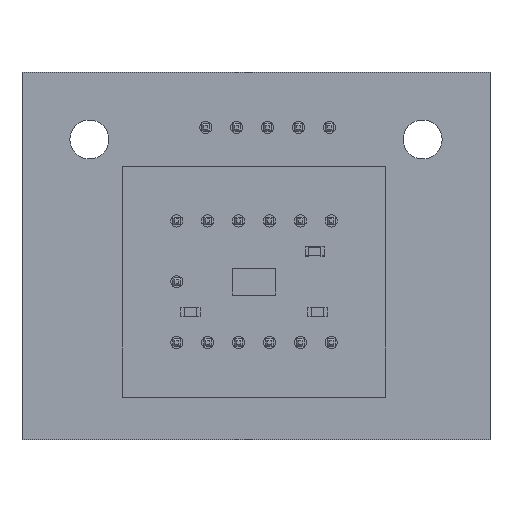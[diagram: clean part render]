
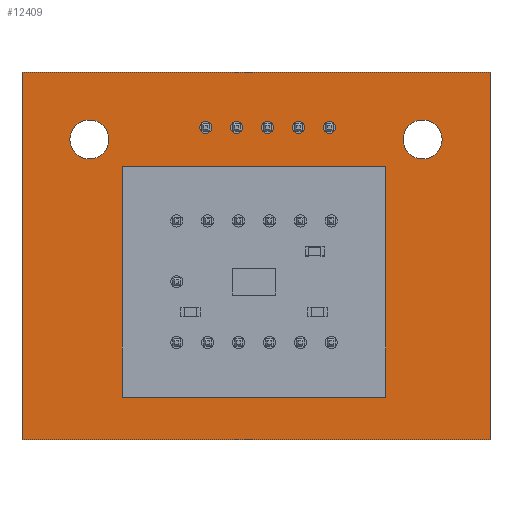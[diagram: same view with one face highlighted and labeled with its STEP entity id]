
A CAD part, top view. The second image highlights one B-rep face of the part: STEP entity #12409.
In plain terms, the highlighted planar face has unit normal (0, 0, 1).
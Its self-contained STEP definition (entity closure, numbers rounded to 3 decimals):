
#12077 = VERTEX_POINT('',#12078);
#12078 = CARTESIAN_POINT('',(19.25,-15.125,1.51));
#12084 = EDGE_CURVE('',#12077,#12085,#12087,.T.);
#12085 = VERTEX_POINT('',#12086);
#12086 = CARTESIAN_POINT('',(-19.25,-15.125,1.51));
#12087 = LINE('',#12088,#12089);
#12088 = CARTESIAN_POINT('',(19.25,-15.125,1.51));
#12089 = VECTOR('',#12090,1.);
#12090 = DIRECTION('',(-1.,0.,0.));
#12117 = VERTEX_POINT('',#12118);
#12118 = CARTESIAN_POINT('',(19.25,15.125,1.51));
#12124 = EDGE_CURVE('',#12117,#12077,#12125,.T.);
#12125 = LINE('',#12126,#12127);
#12126 = CARTESIAN_POINT('',(19.25,15.125,1.51));
#12127 = VECTOR('',#12128,1.);
#12128 = DIRECTION('',(0.,-1.,0.));
#12146 = EDGE_CURVE('',#12085,#12147,#12149,.T.);
#12147 = VERTEX_POINT('',#12148);
#12148 = CARTESIAN_POINT('',(-19.25,15.125,1.51));
#12149 = LINE('',#12150,#12151);
#12150 = CARTESIAN_POINT('',(-19.25,-15.125,1.51));
#12151 = VECTOR('',#12152,1.);
#12152 = DIRECTION('',(0.,1.,0.));
#12409 = ADVANCED_FACE('',(#12410,#12421,#12432,#12443,#12454,#12465,
    #12476,#12487,#12498,#12509,#12520,#12531,#12542,#12553,#12564,
    #12575,#12586,#12597,#12608,#12619,#12630),#12641,.T.);
#12410 = FACE_BOUND('',#12411,.T.);
#12411 = EDGE_LOOP('',(#12412,#12413,#12414,#12420));
#12412 = ORIENTED_EDGE('',*,*,#12084,.F.);
#12413 = ORIENTED_EDGE('',*,*,#12124,.F.);
#12414 = ORIENTED_EDGE('',*,*,#12415,.F.);
#12415 = EDGE_CURVE('',#12147,#12117,#12416,.T.);
#12416 = LINE('',#12417,#12418);
#12417 = CARTESIAN_POINT('',(-19.25,15.125,1.51));
#12418 = VECTOR('',#12419,1.);
#12419 = DIRECTION('',(1.,0.,0.));
#12420 = ORIENTED_EDGE('',*,*,#12146,.F.);
#12421 = FACE_BOUND('',#12422,.T.);
#12422 = EDGE_LOOP('',(#12423));
#12423 = ORIENTED_EDGE('',*,*,#12424,.T.);
#12424 = EDGE_CURVE('',#12425,#12425,#12427,.T.);
#12425 = VERTEX_POINT('',#12426);
#12426 = CARTESIAN_POINT('',(-6.33,-7.625,1.51));
#12427 = CIRCLE('',#12428,0.5);
#12428 = AXIS2_PLACEMENT_3D('',#12429,#12430,#12431);
#12429 = CARTESIAN_POINT('',(-6.33,-7.125,1.51));
#12430 = DIRECTION('',(-0.,0.,-1.));
#12431 = DIRECTION('',(-0.,-1.,0.));
#12432 = FACE_BOUND('',#12433,.T.);
#12433 = EDGE_LOOP('',(#12434));
#12434 = ORIENTED_EDGE('',*,*,#12435,.T.);
#12435 = EDGE_CURVE('',#12436,#12436,#12438,.T.);
#12436 = VERTEX_POINT('',#12437);
#12437 = CARTESIAN_POINT('',(-3.79,-7.625,1.51));
#12438 = CIRCLE('',#12439,0.5);
#12439 = AXIS2_PLACEMENT_3D('',#12440,#12441,#12442);
#12440 = CARTESIAN_POINT('',(-3.79,-7.125,1.51));
#12441 = DIRECTION('',(-0.,0.,-1.));
#12442 = DIRECTION('',(-0.,-1.,0.));
#12443 = FACE_BOUND('',#12444,.T.);
#12444 = EDGE_LOOP('',(#12445));
#12445 = ORIENTED_EDGE('',*,*,#12446,.T.);
#12446 = EDGE_CURVE('',#12447,#12447,#12449,.T.);
#12447 = VERTEX_POINT('',#12448);
#12448 = CARTESIAN_POINT('',(-1.25,-7.625,1.51));
#12449 = CIRCLE('',#12450,0.5);
#12450 = AXIS2_PLACEMENT_3D('',#12451,#12452,#12453);
#12451 = CARTESIAN_POINT('',(-1.25,-7.125,1.51));
#12452 = DIRECTION('',(-0.,0.,-1.));
#12453 = DIRECTION('',(-0.,-1.,0.));
#12454 = FACE_BOUND('',#12455,.T.);
#12455 = EDGE_LOOP('',(#12456));
#12456 = ORIENTED_EDGE('',*,*,#12457,.T.);
#12457 = EDGE_CURVE('',#12458,#12458,#12460,.T.);
#12458 = VERTEX_POINT('',#12459);
#12459 = CARTESIAN_POINT('',(-6.34,-2.625,1.51));
#12460 = CIRCLE('',#12461,0.5);
#12461 = AXIS2_PLACEMENT_3D('',#12462,#12463,#12464);
#12462 = CARTESIAN_POINT('',(-6.34,-2.125,1.51));
#12463 = DIRECTION('',(-0.,0.,-1.));
#12464 = DIRECTION('',(-0.,-1.,0.));
#12465 = FACE_BOUND('',#12466,.T.);
#12466 = EDGE_LOOP('',(#12467));
#12467 = ORIENTED_EDGE('',*,*,#12468,.T.);
#12468 = EDGE_CURVE('',#12469,#12469,#12471,.T.);
#12469 = VERTEX_POINT('',#12470);
#12470 = CARTESIAN_POINT('',(1.29,-7.625,1.51));
#12471 = CIRCLE('',#12472,0.5);
#12472 = AXIS2_PLACEMENT_3D('',#12473,#12474,#12475);
#12473 = CARTESIAN_POINT('',(1.29,-7.125,1.51));
#12474 = DIRECTION('',(-0.,0.,-1.));
#12475 = DIRECTION('',(-0.,-1.,0.));
#12476 = FACE_BOUND('',#12477,.T.);
#12477 = EDGE_LOOP('',(#12478));
#12478 = ORIENTED_EDGE('',*,*,#12479,.T.);
#12479 = EDGE_CURVE('',#12480,#12480,#12482,.T.);
#12480 = VERTEX_POINT('',#12481);
#12481 = CARTESIAN_POINT('',(3.83,-7.625,1.51));
#12482 = CIRCLE('',#12483,0.5);
#12483 = AXIS2_PLACEMENT_3D('',#12484,#12485,#12486);
#12484 = CARTESIAN_POINT('',(3.83,-7.125,1.51));
#12485 = DIRECTION('',(-0.,0.,-1.));
#12486 = DIRECTION('',(-0.,-1.,0.));
#12487 = FACE_BOUND('',#12488,.T.);
#12488 = EDGE_LOOP('',(#12489));
#12489 = ORIENTED_EDGE('',*,*,#12490,.T.);
#12490 = EDGE_CURVE('',#12491,#12491,#12493,.T.);
#12491 = VERTEX_POINT('',#12492);
#12492 = CARTESIAN_POINT('',(6.37,-7.625,1.51));
#12493 = CIRCLE('',#12494,0.5);
#12494 = AXIS2_PLACEMENT_3D('',#12495,#12496,#12497);
#12495 = CARTESIAN_POINT('',(6.37,-7.125,1.51));
#12496 = DIRECTION('',(-0.,0.,-1.));
#12497 = DIRECTION('',(-0.,-1.,0.));
#12498 = FACE_BOUND('',#12499,.T.);
#12499 = EDGE_LOOP('',(#12500));
#12500 = ORIENTED_EDGE('',*,*,#12501,.T.);
#12501 = EDGE_CURVE('',#12502,#12502,#12504,.T.);
#12502 = VERTEX_POINT('',#12503);
#12503 = CARTESIAN_POINT('',(-6.335,2.375,1.51));
#12504 = CIRCLE('',#12505,0.5);
#12505 = AXIS2_PLACEMENT_3D('',#12506,#12507,#12508);
#12506 = CARTESIAN_POINT('',(-6.335,2.875,1.51));
#12507 = DIRECTION('',(-0.,0.,-1.));
#12508 = DIRECTION('',(-0.,-1.,0.));
#12509 = FACE_BOUND('',#12510,.T.);
#12510 = EDGE_LOOP('',(#12511));
#12511 = ORIENTED_EDGE('',*,*,#12512,.T.);
#12512 = EDGE_CURVE('',#12513,#12513,#12515,.T.);
#12513 = VERTEX_POINT('',#12514);
#12514 = CARTESIAN_POINT('',(-3.795,2.375,1.51));
#12515 = CIRCLE('',#12516,0.5);
#12516 = AXIS2_PLACEMENT_3D('',#12517,#12518,#12519);
#12517 = CARTESIAN_POINT('',(-3.795,2.875,1.51));
#12518 = DIRECTION('',(-0.,0.,-1.));
#12519 = DIRECTION('',(-0.,-1.,0.));
#12520 = FACE_BOUND('',#12521,.T.);
#12521 = EDGE_LOOP('',(#12522));
#12522 = ORIENTED_EDGE('',*,*,#12523,.T.);
#12523 = EDGE_CURVE('',#12524,#12524,#12526,.T.);
#12524 = VERTEX_POINT('',#12525);
#12525 = CARTESIAN_POINT('',(-1.255,2.375,1.51));
#12526 = CIRCLE('',#12527,0.5);
#12527 = AXIS2_PLACEMENT_3D('',#12528,#12529,#12530);
#12528 = CARTESIAN_POINT('',(-1.255,2.875,1.51));
#12529 = DIRECTION('',(-0.,0.,-1.));
#12530 = DIRECTION('',(-0.,-1.,0.));
#12531 = FACE_BOUND('',#12532,.T.);
#12532 = EDGE_LOOP('',(#12533));
#12533 = ORIENTED_EDGE('',*,*,#12534,.T.);
#12534 = EDGE_CURVE('',#12535,#12535,#12537,.T.);
#12535 = VERTEX_POINT('',#12536);
#12536 = CARTESIAN_POINT('',(-13.71,7.985,1.51));
#12537 = CIRCLE('',#12538,1.6);
#12538 = AXIS2_PLACEMENT_3D('',#12539,#12540,#12541);
#12539 = CARTESIAN_POINT('',(-13.71,9.585,1.51));
#12540 = DIRECTION('',(-0.,0.,-1.));
#12541 = DIRECTION('',(-0.,-1.,0.));
#12542 = FACE_BOUND('',#12543,.T.);
#12543 = EDGE_LOOP('',(#12544));
#12544 = ORIENTED_EDGE('',*,*,#12545,.T.);
#12545 = EDGE_CURVE('',#12546,#12546,#12548,.T.);
#12546 = VERTEX_POINT('',#12547);
#12547 = CARTESIAN_POINT('',(-4.13,10.085,1.51));
#12548 = CIRCLE('',#12549,0.5);
#12549 = AXIS2_PLACEMENT_3D('',#12550,#12551,#12552);
#12550 = CARTESIAN_POINT('',(-4.13,10.585,1.51));
#12551 = DIRECTION('',(-0.,0.,-1.));
#12552 = DIRECTION('',(-0.,-1.,0.));
#12553 = FACE_BOUND('',#12554,.T.);
#12554 = EDGE_LOOP('',(#12555));
#12555 = ORIENTED_EDGE('',*,*,#12556,.T.);
#12556 = EDGE_CURVE('',#12557,#12557,#12559,.T.);
#12557 = VERTEX_POINT('',#12558);
#12558 = CARTESIAN_POINT('',(-1.59,10.085,1.51));
#12559 = CIRCLE('',#12560,0.5);
#12560 = AXIS2_PLACEMENT_3D('',#12561,#12562,#12563);
#12561 = CARTESIAN_POINT('',(-1.59,10.585,1.51));
#12562 = DIRECTION('',(-0.,0.,-1.));
#12563 = DIRECTION('',(0.,-1.,0.));
#12564 = FACE_BOUND('',#12565,.T.);
#12565 = EDGE_LOOP('',(#12566));
#12566 = ORIENTED_EDGE('',*,*,#12567,.T.);
#12567 = EDGE_CURVE('',#12568,#12568,#12570,.T.);
#12568 = VERTEX_POINT('',#12569);
#12569 = CARTESIAN_POINT('',(1.285,2.375,1.51));
#12570 = CIRCLE('',#12571,0.5);
#12571 = AXIS2_PLACEMENT_3D('',#12572,#12573,#12574);
#12572 = CARTESIAN_POINT('',(1.285,2.875,1.51));
#12573 = DIRECTION('',(-0.,0.,-1.));
#12574 = DIRECTION('',(-0.,-1.,0.));
#12575 = FACE_BOUND('',#12576,.T.);
#12576 = EDGE_LOOP('',(#12577));
#12577 = ORIENTED_EDGE('',*,*,#12578,.T.);
#12578 = EDGE_CURVE('',#12579,#12579,#12581,.T.);
#12579 = VERTEX_POINT('',#12580);
#12580 = CARTESIAN_POINT('',(3.825,2.375,1.51));
#12581 = CIRCLE('',#12582,0.5);
#12582 = AXIS2_PLACEMENT_3D('',#12583,#12584,#12585);
#12583 = CARTESIAN_POINT('',(3.825,2.875,1.51));
#12584 = DIRECTION('',(-0.,0.,-1.));
#12585 = DIRECTION('',(-0.,-1.,0.));
#12586 = FACE_BOUND('',#12587,.T.);
#12587 = EDGE_LOOP('',(#12588));
#12588 = ORIENTED_EDGE('',*,*,#12589,.T.);
#12589 = EDGE_CURVE('',#12590,#12590,#12592,.T.);
#12590 = VERTEX_POINT('',#12591);
#12591 = CARTESIAN_POINT('',(6.365,2.375,1.51));
#12592 = CIRCLE('',#12593,0.5);
#12593 = AXIS2_PLACEMENT_3D('',#12594,#12595,#12596);
#12594 = CARTESIAN_POINT('',(6.365,2.875,1.51));
#12595 = DIRECTION('',(-0.,0.,-1.));
#12596 = DIRECTION('',(-0.,-1.,0.));
#12597 = FACE_BOUND('',#12598,.T.);
#12598 = EDGE_LOOP('',(#12599));
#12599 = ORIENTED_EDGE('',*,*,#12600,.T.);
#12600 = EDGE_CURVE('',#12601,#12601,#12603,.T.);
#12601 = VERTEX_POINT('',#12602);
#12602 = CARTESIAN_POINT('',(0.95,10.085,1.51));
#12603 = CIRCLE('',#12604,0.5);
#12604 = AXIS2_PLACEMENT_3D('',#12605,#12606,#12607);
#12605 = CARTESIAN_POINT('',(0.95,10.585,1.51));
#12606 = DIRECTION('',(-0.,0.,-1.));
#12607 = DIRECTION('',(-0.,-1.,0.));
#12608 = FACE_BOUND('',#12609,.T.);
#12609 = EDGE_LOOP('',(#12610));
#12610 = ORIENTED_EDGE('',*,*,#12611,.T.);
#12611 = EDGE_CURVE('',#12612,#12612,#12614,.T.);
#12612 = VERTEX_POINT('',#12613);
#12613 = CARTESIAN_POINT('',(3.49,10.085,1.51));
#12614 = CIRCLE('',#12615,0.5);
#12615 = AXIS2_PLACEMENT_3D('',#12616,#12617,#12618);
#12616 = CARTESIAN_POINT('',(3.49,10.585,1.51));
#12617 = DIRECTION('',(-0.,0.,-1.));
#12618 = DIRECTION('',(-0.,-1.,0.));
#12619 = FACE_BOUND('',#12620,.T.);
#12620 = EDGE_LOOP('',(#12621));
#12621 = ORIENTED_EDGE('',*,*,#12622,.T.);
#12622 = EDGE_CURVE('',#12623,#12623,#12625,.T.);
#12623 = VERTEX_POINT('',#12624);
#12624 = CARTESIAN_POINT('',(6.03,10.085,1.51));
#12625 = CIRCLE('',#12626,0.5);
#12626 = AXIS2_PLACEMENT_3D('',#12627,#12628,#12629);
#12627 = CARTESIAN_POINT('',(6.03,10.585,1.51));
#12628 = DIRECTION('',(-0.,0.,-1.));
#12629 = DIRECTION('',(-0.,-1.,0.));
#12630 = FACE_BOUND('',#12631,.T.);
#12631 = EDGE_LOOP('',(#12632));
#12632 = ORIENTED_EDGE('',*,*,#12633,.T.);
#12633 = EDGE_CURVE('',#12634,#12634,#12636,.T.);
#12634 = VERTEX_POINT('',#12635);
#12635 = CARTESIAN_POINT('',(13.71,7.985,1.51));
#12636 = CIRCLE('',#12637,1.6);
#12637 = AXIS2_PLACEMENT_3D('',#12638,#12639,#12640);
#12638 = CARTESIAN_POINT('',(13.71,9.585,1.51));
#12639 = DIRECTION('',(-0.,0.,-1.));
#12640 = DIRECTION('',(-0.,-1.,0.));
#12641 = PLANE('',#12642);
#12642 = AXIS2_PLACEMENT_3D('',#12643,#12644,#12645);
#12643 = CARTESIAN_POINT('',(0.,0.,1.51));
#12644 = DIRECTION('',(0.,0.,1.));
#12645 = DIRECTION('',(1.,0.,-0.));
